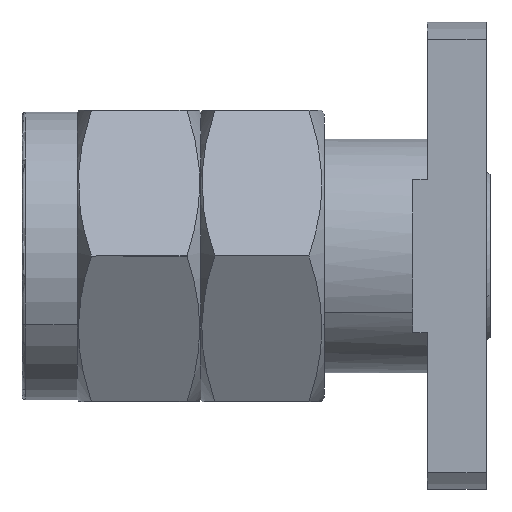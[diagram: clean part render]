
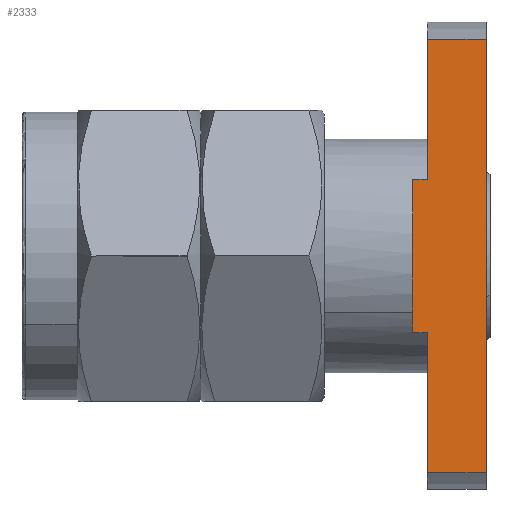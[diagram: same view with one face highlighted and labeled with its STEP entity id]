
A CAD part, front view. The second image highlights one B-rep face of the part: STEP entity #2333.
In plain terms, the highlighted planar face has unit normal (0, -1, 0).
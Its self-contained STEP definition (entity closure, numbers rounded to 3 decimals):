
#2041=CARTESIAN_POINT('Vertex',(11.,-2.4,-2.079)) ;
#2044=CARTESIAN_POINT('Line Origine',(5.532,-2.4,-2.079)) ;
#2048=CARTESIAN_POINT('Vertex',(10.6,-2.4,-2.079)) ;
#2106=CARTESIAN_POINT('Vertex',(11.,-2.4,2.079)) ;
#2140=CARTESIAN_POINT('Vertex',(10.6,-2.4,2.079)) ;
#2143=CARTESIAN_POINT('Line Origine',(5.532,-2.4,2.079)) ;
#2176=CARTESIAN_POINT('Vertex',(11.,-2.4,-5.879)) ;
#2181=CARTESIAN_POINT('Line Origine',(11.,-2.4,-3.979)) ;
#2287=CARTESIAN_POINT('Axis2P3D Location',(12.6,-2.4,8.491)) ;
#2292=CARTESIAN_POINT('Line Origine',(11.,-2.4,3.979)) ;
#2296=CARTESIAN_POINT('Vertex',(11.,-2.4,5.879)) ;
#2299=CARTESIAN_POINT('Line Origine',(10.6,-2.4,0.)) ;
#2304=CARTESIAN_POINT('Line Origine',(11.8,-2.4,-5.879)) ;
#2308=CARTESIAN_POINT('Vertex',(12.6,-2.4,-5.879)) ;
#2311=CARTESIAN_POINT('Line Origine',(12.6,-2.4,0.)) ;
#2315=CARTESIAN_POINT('Vertex',(12.6,-2.4,5.879)) ;
#2318=CARTESIAN_POINT('Line Origine',(11.8,-2.4,5.879)) ;
#2045=DIRECTION('Vector Direction',(1.,0.,0.)) ;
#2144=DIRECTION('Vector Direction',(1.,0.,0.)) ;
#2182=DIRECTION('Vector Direction',(0.,0.,-1.)) ;
#2288=DIRECTION('Axis2P3D Direction',(0.,1.,0.)) ;
#2289=DIRECTION('Axis2P3D XDirection',(0.,0.,-1.)) ;
#2293=DIRECTION('Vector Direction',(0.,0.,-1.)) ;
#2300=DIRECTION('Vector Direction',(0.,0.,-1.)) ;
#2305=DIRECTION('Vector Direction',(-1.,0.,0.)) ;
#2312=DIRECTION('Vector Direction',(0.,0.,-1.)) ;
#2319=DIRECTION('Vector Direction',(-1.,0.,0.)) ;
#2290=AXIS2_PLACEMENT_3D('Plane Axis2P3D',#2287,#2288,#2289) ;
#2324=ORIENTED_EDGE('',*,*,#2298,.T.) ;
#2325=ORIENTED_EDGE('',*,*,#2147,.T.) ;
#2326=ORIENTED_EDGE('',*,*,#2303,.T.) ;
#2327=ORIENTED_EDGE('',*,*,#2050,.F.) ;
#2328=ORIENTED_EDGE('',*,*,#2185,.T.) ;
#2329=ORIENTED_EDGE('',*,*,#2310,.F.) ;
#2330=ORIENTED_EDGE('',*,*,#2317,.F.) ;
#2331=ORIENTED_EDGE('',*,*,#2322,.T.) ;
#2046=VECTOR('Line Direction',#2045,1.) ;
#2145=VECTOR('Line Direction',#2144,1.) ;
#2183=VECTOR('Line Direction',#2182,1.) ;
#2294=VECTOR('Line Direction',#2293,1.) ;
#2301=VECTOR('Line Direction',#2300,1.) ;
#2306=VECTOR('Line Direction',#2305,1.) ;
#2313=VECTOR('Line Direction',#2312,1.) ;
#2320=VECTOR('Line Direction',#2319,1.) ;
#2333=ADVANCED_FACE('',(#2332),#2291,.F.) ;
#2050=EDGE_CURVE('',#2042,#2049,#2047,.F.) ;
#2147=EDGE_CURVE('',#2107,#2141,#2146,.F.) ;
#2185=EDGE_CURVE('',#2042,#2177,#2184,.T.) ;
#2298=EDGE_CURVE('',#2297,#2107,#2295,.T.) ;
#2303=EDGE_CURVE('',#2141,#2049,#2302,.T.) ;
#2310=EDGE_CURVE('',#2309,#2177,#2307,.T.) ;
#2317=EDGE_CURVE('',#2316,#2309,#2314,.T.) ;
#2322=EDGE_CURVE('',#2316,#2297,#2321,.T.) ;
#2323=EDGE_LOOP('',(#2324,#2325,#2326,#2327,#2328,#2329,#2330,#2331)) ;
#2332=FACE_OUTER_BOUND('',#2323,.T.) ;
#2047=LINE('Line',#2044,#2046) ;
#2146=LINE('Line',#2143,#2145) ;
#2184=LINE('Line',#2181,#2183) ;
#2295=LINE('Line',#2292,#2294) ;
#2302=LINE('Line',#2299,#2301) ;
#2307=LINE('Line',#2304,#2306) ;
#2314=LINE('Line',#2311,#2313) ;
#2321=LINE('Line',#2318,#2320) ;
#2291=PLANE('Plane',#2290) ;
#2042=VERTEX_POINT('',#2041) ;
#2049=VERTEX_POINT('',#2048) ;
#2107=VERTEX_POINT('',#2106) ;
#2141=VERTEX_POINT('',#2140) ;
#2177=VERTEX_POINT('',#2176) ;
#2297=VERTEX_POINT('',#2296) ;
#2309=VERTEX_POINT('',#2308) ;
#2316=VERTEX_POINT('',#2315) ;
